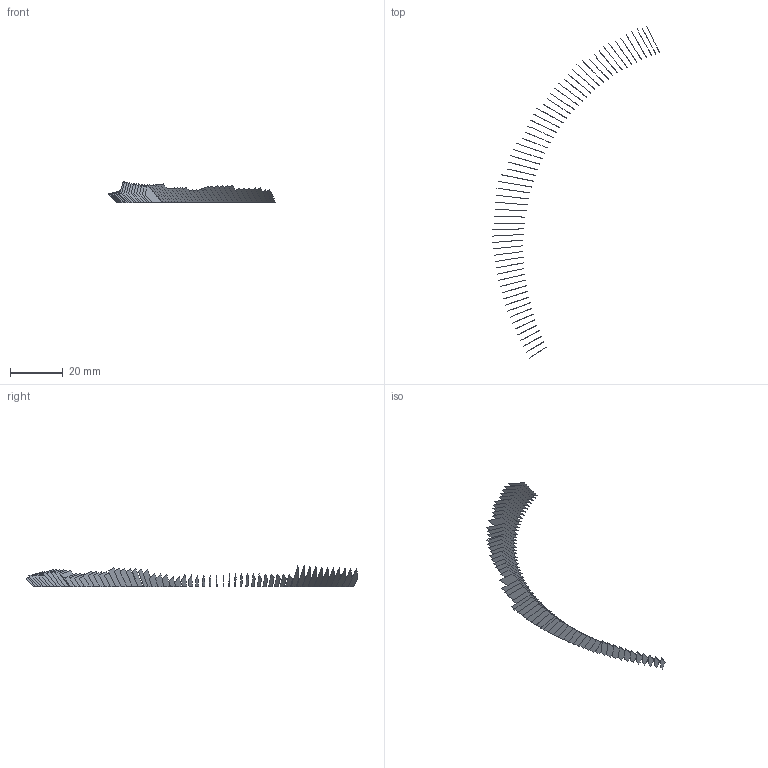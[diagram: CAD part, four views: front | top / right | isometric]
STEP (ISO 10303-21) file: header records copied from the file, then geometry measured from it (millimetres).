
FILE_DESCRIPTION(('FreeCAD Model'),'2;1');
FILE_NAME('Open CASCADE Shape Model','2022-05-21T09:28:01',('FreeCAD'),( 'FreeCAD'),'Open CASCADE STEP processor 7.5','FreeCAD','Unknown');
FILE_SCHEMA(('AUTOMOTIVE_DESIGN { 1 0 10303 214 1 1 1 1 }'));
Length unit declared in the file: millimetre
Products named in the file (64): Open CASCADE STEP translator 7.5 1; Open CASCADE STEP translator 7.5 1.1; Open CASCADE STEP translator 7.5 1.2; Open CASCADE STEP translator 7.5 1.3; Open CASCADE STEP translator 7.5 1.4; Open CASCADE STEP translator 7.5 1.5; Open CASCADE STEP translator 7.5 1.6; Open CASCADE STEP translator 7.5 1.7; Open CASCADE STEP translator 7.5 1.8; Open CASCADE STEP translator 7.5 1.9; Open CASCADE STEP translator 7.5 1.10; Open CASCADE STEP translator 7.5 1.11; Open CASCADE STEP translator 7.5 1.12; Open CASCADE STEP translator 7.5 1.13; Open CASCADE STEP translator 7.5 1.14; Open CASCADE STEP translator 7.5 1.15; Open CASCADE STEP translator 7.5 1.16; Open CASCADE STEP translator 7.5 1.17; Open CASCADE STEP translator 7.5 1.18; Open CASCADE STEP translator 7.5 1.19; Open CASCADE STEP translator 7.5 1.20; Open CASCADE STEP translator 7.5 1.21; Open CASCADE STEP translator 7.5 1.22; Open CASCADE STEP translator 7.5 1.23; Open CASCADE STEP translator 7.5 1.24; Open CASCADE STEP translator 7.5 1.25; Open CASCADE STEP translator 7.5 1.26; Open CASCADE STEP translator 7.5 1.27; Open CASCADE STEP translator 7.5 1.28; Open CASCADE STEP translator 7.5 1.29; Open CASCADE STEP translator 7.5 1.30; Open CASCADE STEP translator 7.5 1.31; Open CASCADE STEP translator 7.5 1.32; Open CASCADE STEP translator 7.5 1.33; Open CASCADE STEP translator 7.5 1.34; Open CASCADE STEP translator 7.5 1.35; Open CASCADE STEP translator 7.5 1.36; Open CASCADE STEP translator 7.5 1.37; Open CASCADE STEP translator 7.5 1.38; Open CASCADE STEP translator 7.5 1.39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
Assembly tree (63 placements, depth 2):
  Open CASCADE STEP translator 7.5 1
    Open CASCADE STEP translator 7.5 1.1
    Open CASCADE STEP translator 7.5 1.2
    Open CASCADE STEP translator 7.5 1.3
    Open CASCADE STEP translator 7.5 1.4
    Open CASCADE STEP translator 7.5 1.5
    Open CASCADE STEP translator 7.5 1.6
    Open CASCADE STEP translator 7.5 1.7
    Open CASCADE STEP translator 7.5 1.8
    Open CASCADE STEP translator 7.5 1.9
    Open CASCADE STEP translator 7.5 1.10
    Open CASCADE STEP translator 7.5 1.11
    Open CASCADE STEP translator 7.5 1.12
    Open CASCADE STEP translator 7.5 1.13
    Open CASCADE STEP translator 7.5 1.14
    Open CASCADE STEP translator 7.5 1.15
    Open CASCADE STEP translator 7.5 1.16
    Open CASCADE STEP translator 7.5 1.17
    Open CASCADE STEP translator 7.5 1.18
    Open CASCADE STEP translator 7.5 1.19
    Open CASCADE STEP translator 7.5 1.20
    Open CASCADE STEP translator 7.5 1.21
    Open CASCADE STEP translator 7.5 1.22
    Open CASCADE STEP translator 7.5 1.23
    Open CASCADE STEP translator 7.5 1.24
    Open CASCADE STEP translator 7.5 1.25
    Open CASCADE STEP translator 7.5 1.26
    Open CASCADE STEP translator 7.5 1.27
    Open CASCADE STEP translator 7.5 1.28
    Open CASCADE STEP translator 7.5 1.29
    Open CASCADE STEP translator 7.5 1.30
    Open CASCADE STEP translator 7.5 1.31
    Open CASCADE STEP translator 7.5 1.32
    Open CASCADE STEP translator 7.5 1.33
    Open CASCADE STEP translator 7.5 1.34
    Open CASCADE STEP translator 7.5 1.35
    Open CASCADE STEP translator 7.5 1.36
    Open CASCADE STEP translator 7.5 1.37
    Open CASCADE STEP translator 7.5 1.38
    Open CASCADE STEP translator 7.5 1.39
    Open CASCADE STEP translator 7.5 1.40
    Open CASCADE STEP translator 7.5 1.41
    Open CASCADE STEP translator 7.5 1.42
    Open CASCADE STEP translator 7.5 1.43
    Open CASCADE STEP translator 7.5 1.44
    Open CASCADE STEP translator 7.5 1.45
    Open CASCADE STEP translator 7.5 1.46
    Open CASCADE STEP translator 7.5 1.47
    Open CASCADE STEP translator 7.5 1.48
    Open CASCADE STEP translator 7.5 1.49
    Open CASCADE STEP translator 7.5 1.50
    Open CASCADE STEP translator 7.5 1.51
    Open CASCADE STEP translator 7.5 1.52
    Open CASCADE STEP translator 7.5 1.53
    Open CASCADE STEP translator 7.5 1.54
    Open CASCADE STEP translator 7.5 1.55
    Open CASCADE STEP translator 7.5 1.56
    Open CASCADE STEP translator 7.5 1.57
    Open CASCADE STEP translator 7.5 1.58
    Open CASCADE STEP translator 7.5 1.59
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Bounding box: 63.3 x 125.51 x 7.98 mm (x, y, z)
Surface area: 1945 mm2 (no closed solid volume)
Topology: 0 solids, 63 shells, 63 faces, 2412 edges, 2412 vertices
Faces by surface type: bspline 63
Entity records: 33136 total; most frequent: CARTESIAN_POINT 12376, B_SPLINE_CURVE_WITH_KNOTS 4824, ORIENTED_EDGE 2412, EDGE_CURVE 2412, VERTEX_POINT 2412, SURFACE_CURVE 2412, PCURVE 2412, DEFINITIONAL_REPRESENTATION 2412
